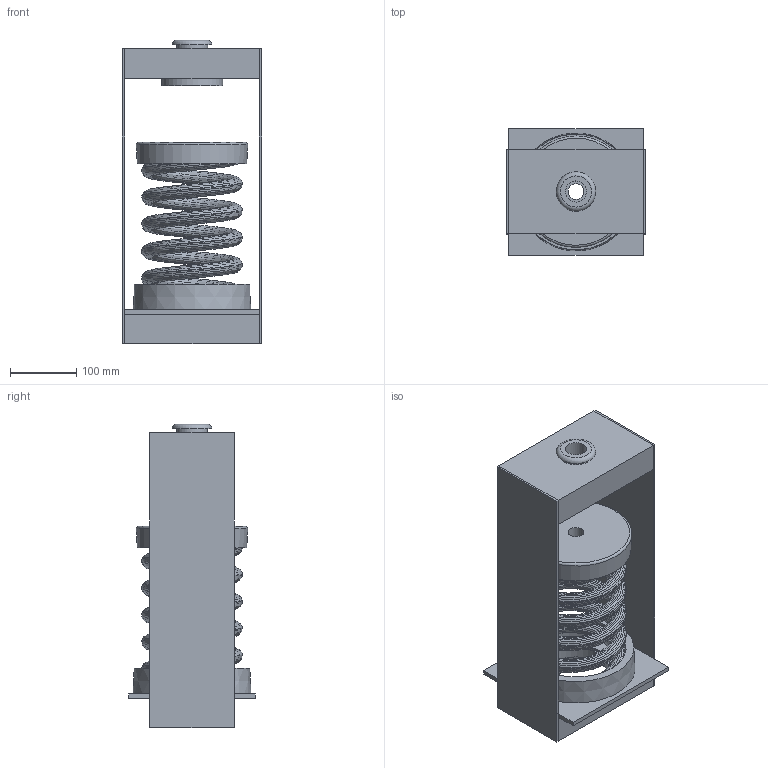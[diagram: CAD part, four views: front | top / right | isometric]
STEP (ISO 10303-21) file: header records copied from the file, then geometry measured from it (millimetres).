
FILE_DESCRIPTION(/* description */ (''),/* implementation_level */ '2;1');
FILE_NAME(/* name */ 'C:\001_Work\Designs\HANGER BOXES\30N 100 SERIES\30N-133-135, 154-157\30N-135.stp',/* time_stamp */ '2015-05-27T09:58:09-04:00',/* author */ ('rramoutar'),/* organization */ ('Mason Industries Inc.'),/* preprocessor_version */ 'ST-DEVELOPER v15.2',/* originating_system */ 'Autodesk Inventor 2014',/* authorisation */ '');
FILE_SCHEMA (('AUTOMOTIVE_DESIGN { 1 0 10303 214 3 1 1 }'));
Length unit declared in the file: inch
Products named in the file (1): 30N-135
Bounding box: 209.55 x 190.5 x 457.14 mm (x, y, z)
Volume: 2094546.4 mm3; surface area: 1021078.5 mm2
Topology: 12 solids, 13 shells, 135 faces, 295 edges, 197 vertices
Faces by surface type: plane 71, cylinder 36, bspline 22, cone 4, torus 2
Full cylindrical faces by diameter (mm): 23.812 x2, 31.75 x2, 41.275 x2, 46.831 x1, 47.625 x1, 82.55 x2, 92.075 x1, 96.837 x2, 98.425 x1, 103.188 x1, 104.775 x2, 107.95 x3, 150.812 x1, 155.575 x1, 158.75 x2
Entity records: 14315 total; most frequent: CARTESIAN_POINT 11333, ORIENTED_EDGE 524, DIRECTION 522, EDGE_CURVE 262, EDGE_LOOP 198, AXIS2_PLACEMENT_3D 198, VERTEX_POINT 194, STYLED_ITEM 147
